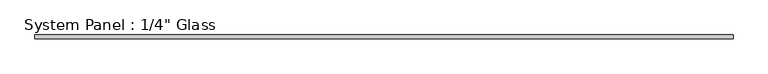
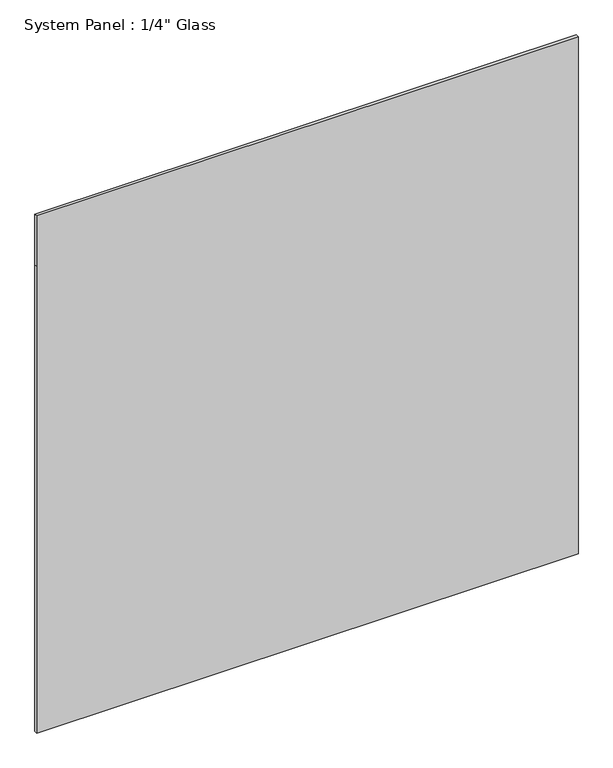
"""IFC4 building model written with IfcOpenShell, lengths in millimetres: plate geometry."""

import ifcopenshell
import ifcopenshell.guid

model = None  # the IFC model being written
_history = None  # IfcOwnerHistory: only IFC2X3 demands one
_inside = {}  # id of a spatial element -> (the spatial element, [elements in it])
_under = {}  # id of a project, library or spatial element -> (it, [spatial elements below it])
_declared = {}  # id of a project -> (the project, [libraries it declares])
_typed = {}  # id of a type object -> (the type object, [elements of that type])
_made_of = {}  # id of a material, layer set ... -> (it, [elements and type objects made of it])


def new_model(schema):
    """Start an empty IFC model of exactly this schema.

    Asked for "IFC4X3", IfcOpenShell would pick the latest addendum, in which some entities
    have other attributes; the version numbers below select the first issue.
    IFC2X3 requires an IfcOwnerHistory on every rooted entity: one is made here for all.
    """
    global model, _history
    if schema == "IFC4X3":
        model = ifcopenshell.file(schema_version=(4, 3, 0, 0))
    else:
        model = ifcopenshell.file(schema=schema)
    _inside.clear()
    _under.clear()
    _declared.clear()
    _typed.clear()
    _made_of.clear()
    _history = None
    if model.schema == "IFC2X3":
        org = make("IfcOrganization", Name="unknown")
        user = make(
            "IfcPersonAndOrganization",
            ThePerson=make("IfcPerson", FamilyName="unknown"),
            TheOrganization=org,
        )
        app = make(
            "IfcApplication",
            ApplicationDeveloper=org,
            Version="unknown",
            ApplicationFullName="unknown",
            ApplicationIdentifier="unknown",
        )
        _history = make(
            "IfcOwnerHistory",
            OwningUser=user,
            OwningApplication=app,
            ChangeAction="ADDED",
            CreationDate=0,
        )
    return model


def make(cls, **values):
    """One entity of the class cls with the attributes given. An attribute that is None is left unset."""
    return model.create_entity(
        cls, **{name: value for name, value in values.items() if value is not None}
    )


def rooted(cls, **values):
    """An entity with a GlobalId (a new one), such as an element, a storey or a relation."""
    return make(cls, GlobalId=ifcopenshell.guid.new(), OwnerHistory=_history, **values)


def si_unit(unit_type, name, prefix=None):
    """IfcSIUnit, for example si_unit("LENGTHUNIT", "METRE", prefix="MILLI")."""
    return make("IfcSIUnit", UnitType=unit_type, Prefix=prefix, Name=name)


def assignment(units):
    """IfcUnitAssignment: the units of a project."""
    return None if units is None else make("IfcUnitAssignment", Units=units)


def point(xyz):
    """IfcCartesianPoint."""
    return None if xyz is None else make("IfcCartesianPoint", Coordinates=xyz)


def direction(xyz):
    """IfcDirection."""
    return None if xyz is None else make("IfcDirection", DirectionRatios=xyz)


def frame(location, z_axis=None, x_axis=None):
    """IfcAxis2Placement3D, a coordinate frame: its origin and axes. An axis left out is left unset."""
    return make(
        "IfcAxis2Placement3D",
        Location=point(location),
        Axis=direction(z_axis),
        RefDirection=direction(x_axis),
    )


def origin():
    """The frame at (0, 0, 0) with its axes left unset."""
    return frame((0.0, 0.0, 0.0))


def place(relative_to, where):
    """IfcLocalPlacement: puts the frame where relative to a parent placement (None: the world)."""
    return make(
        "IfcLocalPlacement", PlacementRelTo=relative_to, RelativePlacement=where
    )


def context(
    kind, dimensions, precision=None, world=None, true_north=None, identifier=None
):
    """IfcGeometricRepresentationContext, for example the 3D "Model" context."""
    return make(
        "IfcGeometricRepresentationContext",
        ContextIdentifier=identifier,
        ContextType=kind,
        CoordinateSpaceDimension=dimensions,
        Precision=precision,
        WorldCoordinateSystem=world,
        TrueNorth=true_north,
    )


def project(units=None, contexts=None):
    """IfcProject with its units and contexts."""
    return rooted(
        "IfcProject",
        Name="project",
        RepresentationContexts=contexts,
        UnitsInContext=assignment(units),
    )


def spatial(cls, under=None, at=None, **own):
    """A site, building, storey or space (cls), placed at a placement, below another one or the project."""
    s = rooted(cls, ObjectPlacement=at, **own)
    if under is not None:
        _under.setdefault(under.id(), (under, []))[1].append(s)
    return s


def polyline(points):
    """IfcPolyline through the points."""
    return make("IfcPolyline", Points=[point(p) for p in points])


def outline(outer, holes=None, kind="AREA"):
    """IfcArbitraryClosedProfileDef: a profile drawn as a closed curve; with holes, ...WithVoids."""
    if holes is None:
        return make("IfcArbitraryClosedProfileDef", ProfileType=kind, OuterCurve=outer)
    return make(
        "IfcArbitraryProfileDefWithVoids",
        ProfileType=kind,
        OuterCurve=outer,
        InnerCurves=holes,
    )


def extrude(swept, where, along, depth):
    """IfcExtrudedAreaSolid: the profile swept, set in the frame where, extruded along a direction by depth."""
    return make(
        "IfcExtrudedAreaSolid",
        SweptArea=swept,
        Position=where,
        ExtrudedDirection=direction(along),
        Depth=depth,
    )


def shape(context_of_items, identifier, shape_type, items):
    """IfcShapeRepresentation: the items that make up one representation, for example the "Body"."""
    return make(
        "IfcShapeRepresentation",
        ContextOfItems=context_of_items,
        RepresentationIdentifier=identifier,
        RepresentationType=shape_type,
        Items=items,
    )


def source(mapping_origin, context_of_items, identifier, shape_type, items):
    """IfcRepresentationMap: a shape defined once, which mapped items show again and again."""
    return make(
        "IfcRepresentationMap",
        MappingOrigin=mapping_origin,
        MappedRepresentation=shape(context_of_items, identifier, shape_type, items),
    )


def transform(
    local_origin,
    x_axis=None,
    y_axis=None,
    z_axis=None,
    scale=None,
    scale2=None,
    scale3=None,
    uniform=True,
):
    """IfcCartesianTransformationOperator3D, or its non-uniform kind. x_axis, y_axis, z_axis: its Axis1, 2, 3."""
    if uniform:
        return make(
            "IfcCartesianTransformationOperator3D",
            Axis1=direction(x_axis),
            Axis2=direction(y_axis),
            LocalOrigin=point(local_origin),
            Scale=scale,
            Axis3=direction(z_axis),
        )
    return make(
        "IfcCartesianTransformationOperator3DnonUniform",
        Axis1=direction(x_axis),
        Axis2=direction(y_axis),
        LocalOrigin=point(local_origin),
        Scale=scale,
        Axis3=direction(z_axis),
        Scale2=scale2,
        Scale3=scale3,
    )


def mapped(mapping_source, mapping_target):
    """IfcMappedItem: shows the shape of a source again, moved by a transform."""
    return make(
        "IfcMappedItem", MappingSource=mapping_source, MappingTarget=mapping_target
    )


def made_of(thing, what):
    """Note that an element or type object is made of a material, layer set ...; save() writes the relation."""
    if what is not None:
        _made_of.setdefault(what.id(), (what, []))[1].append(thing)
    return thing


def element(
    cls,
    number,
    at=None,
    inside=None,
    cuts=None,
    type_object=None,
    material=None,
    context=None,
    identifier="Body",
    shape_type=None,
    held_by="IfcProductDefinitionShape",
    body=None,
    shapes=None,
    **own,
):
    """One element of the class cls, such as IfcWall. Its Tag is "e" and its number.

    at: its placement. inside: the storey or other place that contains it. cuts: it is an
    opening in that element (IfcRelVoidsElement). A single representation is given by context,
    identifier, shape_type and body (its items); several are given by shapes. held_by: the class
    of the entity that holds the representations. save() writes the other relations.
    """
    e = rooted(cls, Tag="e%d" % number, ObjectPlacement=at, **own)
    if body is not None:
        shapes = [shape(context, identifier, shape_type, body)]
    if shapes is not None:
        e.Representation = make(held_by, Representations=shapes)
    if inside is not None:
        _inside.setdefault(inside.id(), (inside, []))[1].append(e)
    if cuts is not None:
        rooted(
            "IfcRelVoidsElement", RelatingBuildingElement=cuts, RelatedOpeningElement=e
        )
    if type_object is not None:
        _typed.setdefault(type_object.id(), (type_object, []))[1].append(e)
    return made_of(e, material)


def aggregate(whole, parts):
    """IfcRelAggregates: a whole, such as a stair, and the parts it consists of."""
    return rooted("IfcRelAggregates", RelatingObject=whole, RelatedObjects=parts)


def save(model, path):
    """Write the relations noted so far, then the file.

    IfcRelAggregates (storeys below a building ...), IfcRelContainedInSpatialStructure (elements
    in a storey), IfcRelDefinesByType, IfcRelAssociatesMaterial and IfcRelDeclares: one each for
    every whole, place, type object, material and project.
    """
    for whole, parts in _under.values():
        aggregate(whole, parts)
    for where, things in _inside.values():
        rooted(
            "IfcRelContainedInSpatialStructure",
            RelatedElements=things,
            RelatingStructure=where,
        )
    for kind, things in _typed.values():
        rooted("IfcRelDefinesByType", RelatedObjects=things, RelatingType=kind)
    for what, things in _made_of.values():
        rooted("IfcRelAssociatesMaterial", RelatedObjects=things, RelatingMaterial=what)
    for by, libraries in _declared.values():
        rooted("IfcRelDeclares", RelatingContext=by, RelatedDefinitions=libraries)
    model.write(path)


def plate_14ea7fdc(model_context):
    return source(origin(), model_context, "Body", "SweptSolid", [
        extrude(outline(polyline([(0.0, -612.4979315), (0.0, 612.4979315), (1116.4405973, 612.4979315), (1237.0923678, 612.4979315), (1237.0923678, -612.4979315), (1116.4405973, -612.4979315), (0.0, -612.4979315)])), frame((0.0, -3.175, 0.0), z_axis=(0.0, 1.0, 0.0), x_axis=(0.0, 0.0, 1.0)), (0.0, 0.0, 1.0), 6.35),
    ])


if __name__ == "__main__":
    model = new_model("IFC4")
    model_context = context("Model", 3, world=origin())
    ifc_project = project(units=[si_unit("LENGTHUNIT", "METRE", prefix="MILLI")], contexts=[model_context])
    site = spatial("IfcSite", under=ifc_project)
    building = spatial("IfcBuilding", under=site)
    placement = place(None, origin())
    plate_shape = plate_14ea7fdc(model_context)
    element("IfcPlate", 1, ObjectType="System Panel : 1/4\" Glass", at=placement, inside=building, context=model_context, shape_type="MappedRepresentation", body=[
        mapped(plate_shape, transform((0.0, 0.0, 0.0), x_axis=(1.0, 0.0, 0.0), y_axis=(0.0, 1.0, 0.0), z_axis=(0.0, 0.0, 1.0))),
    ])
    save(model, "model.ifc")
